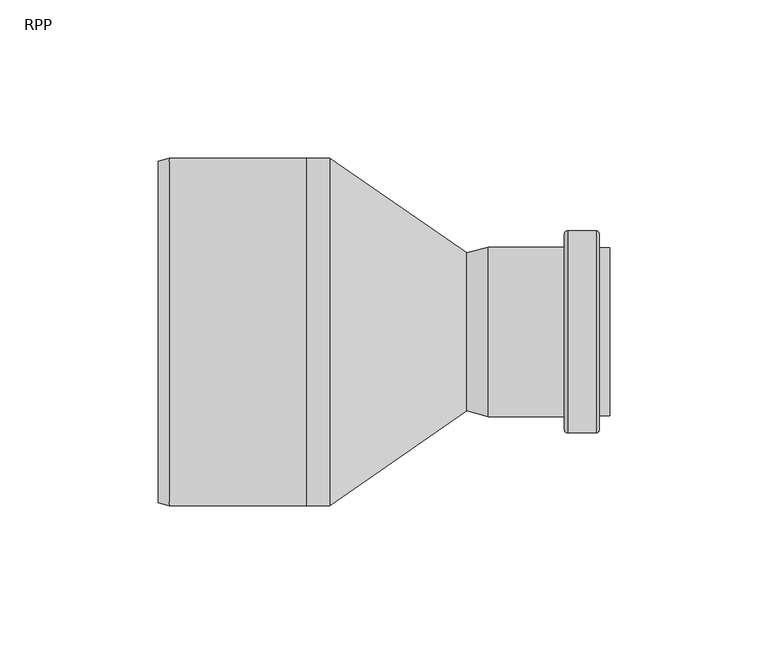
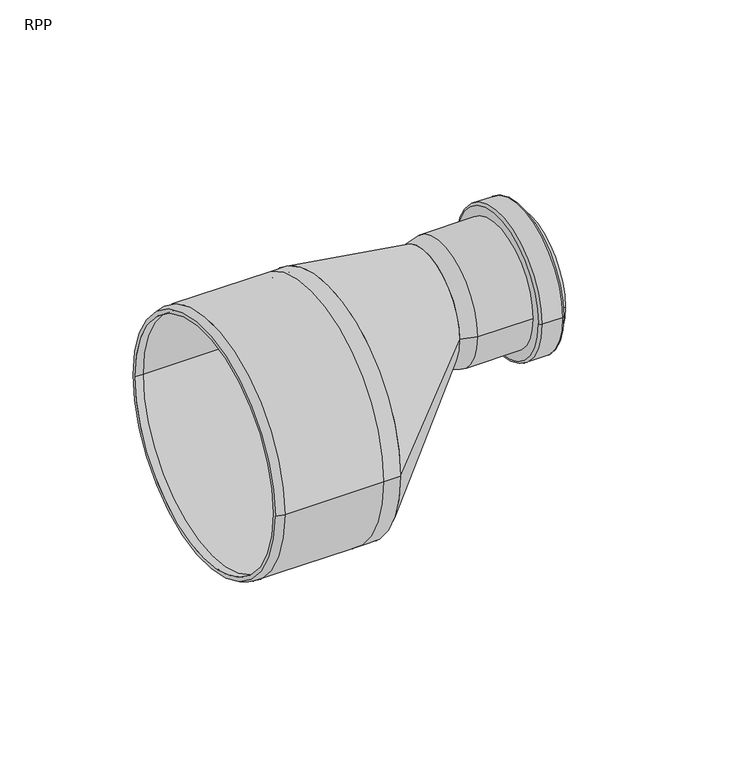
"""IFC4 building model written with IfcOpenShell, lengths in millimetres: pipe fitting geometry, RAUPIANO PLUS Reducer : RPP."""

from ifc_helpers import new_model, si_unit, point, frame, origin, place, context, project, spatial, polyline, circle_curve, ellipse_curve, trimmed, source, transform, mapped, element, save
from ifc_brep_helpers import plane_surface, cylinder_surface, revolved_surface, spline_surface, advanced_brep


def rpp_d01391a3(model_context):
    return source(origin(), model_context, "Body", "AdvancedBrep", [
        advanced_brep(
        [(52.6, 26.8220545, 30.0), (52.6, -26.8220545, 30.0), (28.5, -26.8220545, 30.0), (28.5, 26.8220545, 30.0), (67.0, 26.6076952, 30.0), (67.0, -26.6076952, 30.0), (63.6, -26.6076952, 30.0), (63.6, 26.6076952, 30.0), (63.6, 25.0220545, 30.0), (63.6, -25.0220545, 30.0), (67.0, -25.0220545, 30.0), (67.0, 25.0220545, 30.0), (28.5, 25.0220545, 30.0), (28.5, -25.0220545, 30.0), (21.7, 23.2, 30.0), (21.7, -23.2, 30.0), (21.7, -25.0, 30.0), (21.7, 25.0, 30.0), (53.6, 31.9720545, 30.0), (53.6, -31.9720545, 30.0), (52.6, -30.9720545, 30.0), (52.6, 30.9720545, 30.0), (62.6, 31.9720545, 30.0), (62.6, -31.9720545, 30.0), (63.6, 30.9720545, 30.0), (63.6, -30.9720545, 30.0)],
        [
            (0, 1, circle_curve(frame((52.6, 0.0, 30.0), z_axis=(-1.0, 0.0, 0.0), x_axis=(0.0, -1.0, 0.0)), 26.8220545)),
            (1, 2),
            (2, 3, circle_curve(frame((28.5, 0.0, 30.0), z_axis=(1.0, 0.0, 0.0), x_axis=(0.0, -1.0, 0.0)), 26.8220545)),
            (3, 0),
            (4, 5, circle_curve(frame((67.0, 0.0, 30.0), z_axis=(-1.0, 0.0, 0.0), x_axis=(0.0, -1.0, 0.0)), 26.6076952)),
            (5, 6),
            (6, 7, circle_curve(frame((63.6, 0.0, 30.0), z_axis=(1.0, 0.0, 0.0), x_axis=(0.0, -1.0, 0.0)), 26.6076952)),
            (7, 4),
            (8, 9, circle_curve(frame((63.6, 0.0, 30.0), z_axis=(-1.0, 0.0, 0.0), x_axis=(0.0, -1.0, 0.0)), 25.0220545)),
            (9, 10),
            (10, 11, circle_curve(frame((67.0, 0.0, 30.0), z_axis=(1.0, 0.0, 0.0), x_axis=(0.0, -1.0, 0.0)), 25.0220545)),
            (11, 8),
            (12, 13, circle_curve(frame((28.5, 0.0, 30.0), z_axis=(-1.0, 0.0, 0.0), x_axis=(0.0, -1.0, 0.0)), 25.0220545)),
            (13, 9),
            (8, 12),
            (14, 15, circle_curve(frame((21.7, 0.0, 30.0), z_axis=(-1.0, 0.0, 0.0), x_axis=(0.0, -1.0, 0.0)), 23.2)),
            (15, 13),
            (12, 14),
            (2, 16),
            (16, 17, circle_curve(frame((21.7, 0.0, 30.0), z_axis=(1.0, 0.0, 0.0), x_axis=(0.0, -1.0, 0.0)), 25.0)),
            (17, 3),
            (1, 0, circle_curve(frame((52.6, 0.0, 30.0), z_axis=(-1.0, 0.0, 0.0), x_axis=(0.0, 1.0, 0.0)), 26.8220545)),
            (3, 2, circle_curve(frame((28.5, 0.0, 30.0), z_axis=(1.0, 0.0, 0.0), x_axis=(0.0, 1.0, 0.0)), 26.8220545)),
            (5, 4, circle_curve(frame((67.0, 0.0, 30.0), z_axis=(-1.0, 0.0, 0.0), x_axis=(0.0, 1.0, 0.0)), 26.6076952)),
            (7, 6, circle_curve(frame((63.6, 0.0, 30.0), z_axis=(1.0, 0.0, 0.0), x_axis=(0.0, 1.0, 0.0)), 26.6076952)),
            (10, 11, circle_curve(frame((67.0, 0.0, 30.0), z_axis=(-1.0, 0.0, 0.0), x_axis=(0.0, 1.0, 0.0)), 25.0220545)),
            (9, 8, circle_curve(frame((63.6, 0.0, 30.0), z_axis=(-1.0, 0.0, 0.0), x_axis=(0.0, 1.0, 0.0)), 25.0220545)),
            (13, 12, circle_curve(frame((28.5, 0.0, 30.0), z_axis=(-1.0, 0.0, 0.0), x_axis=(0.0, 1.0, 0.0)), 25.0220545)),
            (15, 14, circle_curve(frame((21.7, 0.0, 30.0), z_axis=(-1.0, 0.0, 0.0), x_axis=(0.0, 1.0, 0.0)), 23.2)),
            (17, 16, circle_curve(frame((21.7, 0.0, 30.0), z_axis=(1.0, 0.0, 0.0), x_axis=(0.0, 1.0, 0.0)), 25.0)),
            (18, 19, circle_curve(frame((53.6, 0.0, 30.0), z_axis=(-1.0, 0.0, 0.0), x_axis=(0.0, -1.0, 0.0)), 31.9720545)),
            (19, 20, circle_curve(frame((53.6, -30.9720545, 30.0), z_axis=(0.0, 0.0, -1.0), x_axis=(1.0, 0.0, 0.0)), 1.0)),
            (20, 21, circle_curve(frame((52.6, 0.0, 30.0), z_axis=(1.0, 0.0, 0.0), x_axis=(0.0, -1.0, 0.0)), 30.9720545)),
            (21, 18, circle_curve(frame((53.6, 30.9720545, 30.0), z_axis=(0.0, 0.0, -1.0), x_axis=(1.0, 0.0, 0.0)), 1.0)),
            (22, 23, circle_curve(frame((62.6, 0.0, 30.0), z_axis=(-1.0, 0.0, 0.0), x_axis=(0.0, -1.0, 0.0)), 31.9720545)),
            (23, 19),
            (18, 22),
            (24, 25, circle_curve(frame((63.6, 0.0, 30.0), z_axis=(-1.0, 0.0, 0.0), x_axis=(0.0, -1.0, 0.0)), 30.9720545)),
            (25, 23, circle_curve(frame((62.6, -30.9720545, 30.0), z_axis=(0.0, 0.0, -1.0), x_axis=(1.0, 0.0, 0.0)), 1.0)),
            (22, 24, circle_curve(frame((62.6, 30.9720545, 30.0), z_axis=(0.0, 0.0, -1.0), x_axis=(1.0, 0.0, 0.0)), 1.0)),
            (20, 21, circle_curve(frame((52.6, 0.0, 30.0), z_axis=(-1.0, 0.0, 0.0), x_axis=(0.0, 1.0, 0.0)), 30.9720545)),
            (19, 18, circle_curve(frame((53.6, 0.0, 30.0), z_axis=(-1.0, 0.0, 0.0), x_axis=(0.0, 1.0, 0.0)), 31.9720545)),
            (23, 22, circle_curve(frame((62.6, 0.0, 30.0), z_axis=(-1.0, 0.0, 0.0), x_axis=(0.0, 1.0, 0.0)), 31.9720545)),
            (25, 24, circle_curve(frame((63.6, 0.0, 30.0), z_axis=(-1.0, 0.0, 0.0), x_axis=(0.0, 1.0, 0.0)), 30.9720545)),
        ],
        [
            cylinder_surface(frame((0.0, 0.0, 30.0), z_axis=(1.0, 0.0, 0.0), x_axis=(0.0, -1.0, 0.0)), 26.8220545),
            cylinder_surface(frame((0.0, 0.0, 30.0), z_axis=(1.0, 0.0, 0.0), x_axis=(0.0, -1.0, 0.0)), 26.6076952),
            revolved_surface(polyline([(67.0, -25.0220545, 30.0), (63.6, -25.0220545, 30.0)]), (0.0, 0.0, 30.0), (1.0, 0.0, 0.0)),
            revolved_surface(polyline([(63.6, -25.0220545, 30.0), (28.5, -25.0220545, 30.0)]), (0.0, 0.0, 30.0), (1.0, 0.0, 0.0)),
            revolved_surface(polyline([(28.5, -25.0220545, 30.0), (21.7, -23.2, 30.0)]), (0.0, 0.0, 30.0), (1.0, 0.0, 0.0)),
            revolved_surface(polyline([(21.7, -25.0, 30.0), (28.5, -26.8220545, 30.0)]), (0.0, 0.0, 30.0), (1.0, 0.0, 0.0)),
            cylinder_surface(frame((0.0, 0.0, 30.0), z_axis=(1.0, 0.0, 0.0), x_axis=(0.0, 1.0, 0.0)), 26.8220545),
            cylinder_surface(frame((0.0, 0.0, 30.0), z_axis=(1.0, 0.0, 0.0), x_axis=(0.0, 1.0, 0.0)), 26.6076952),
            plane_surface(frame((67.0, 0.0, 30.0), z_axis=(1.0, 0.0, 0.0), x_axis=(0.0, 1.0, 0.0))),
            revolved_surface(polyline([(67.0, 25.0220545, 30.0), (63.6, 25.0220545, 30.0)]), (0.0, 0.0, 30.0), (1.0, 0.0, 0.0)),
            revolved_surface(polyline([(63.6, 25.0220545, 30.0), (28.5, 25.0220545, 30.0)]), (0.0, 0.0, 30.0), (1.0, 0.0, 0.0)),
            revolved_surface(polyline([(28.5, 25.0220545, 30.0), (21.7, 23.2, 30.0)]), (0.0, 0.0, 30.0), (1.0, 0.0, 0.0)),
            revolved_surface(polyline([(21.7, 25.0, 30.0), (28.5, 26.8220545, 30.0)]), (0.0, 0.0, 30.0), (1.0, 0.0, 0.0)),
            revolved_surface(trimmed(ellipse_curve(frame((53.6, -30.9720545, 30.0), z_axis=(0.0, 0.0, 1.0), x_axis=(1.0, 0.0, 0.0)), 1.0, 1.0), [point((52.6, -30.9720545, 30.0))], [point((53.6, -31.9720545, 30.0))], True, "CARTESIAN"), (0.0, 0.0, 30.0), (1.0, 0.0, 0.0)),
            cylinder_surface(frame((0.0, 0.0, 30.0), z_axis=(1.0, 0.0, 0.0), x_axis=(0.0, -1.0, 0.0)), 31.9720545),
            revolved_surface(trimmed(ellipse_curve(frame((62.6, -30.9720545, 30.0), z_axis=(0.0, 0.0, 1.0), x_axis=(1.0, 0.0, 0.0)), 1.0, 1.0), [point((62.6, -31.9720545, 30.0))], [point((63.6, -30.9720545, 30.0))], True, "CARTESIAN"), (0.0, 0.0, 30.0), (1.0, 0.0, 0.0)),
            plane_surface(frame((52.6, 0.0, 30.0), z_axis=(-1.0, 0.0, 0.0), x_axis=(0.0, 1.0, 0.0))),
            revolved_surface(trimmed(ellipse_curve(frame((53.6, 30.9720545, 30.0), z_axis=(0.0, 0.0, -1.0), x_axis=(1.0, 0.0, 0.0)), 1.0, 1.0), [point((52.6, 30.9720545, 30.0))], [point((53.6, 31.9720545, 30.0))], True, "CARTESIAN"), (0.0, 0.0, 30.0), (1.0, 0.0, 0.0)),
            cylinder_surface(frame((0.0, 0.0, 30.0), z_axis=(1.0, 0.0, 0.0), x_axis=(0.0, 1.0, 0.0)), 31.9720545),
            revolved_surface(trimmed(ellipse_curve(frame((62.6, 30.9720545, 30.0), z_axis=(0.0, 0.0, -1.0), x_axis=(1.0, 0.0, 0.0)), 1.0, 1.0), [point((62.6, 31.9720545, 30.0))], [point((63.6, 30.9720545, 30.0))], True, "CARTESIAN"), (0.0, 0.0, 30.0), (1.0, 0.0, 0.0)),
            plane_surface(frame((63.6, 0.0, 30.0), z_axis=(1.0, 0.0, 0.0), x_axis=(0.0, 1.0, 0.0))),
            plane_surface(frame((21.7, 0.0, 30.0), z_axis=(-1.0, 0.0, 0.0), x_axis=(0.0, 1.0, 0.0))),
        ],
        [
            (0, [[1, 2, 3, 4]]),
            (1, [[5, 6, 7, 8]]),
            (2, [[9, 10, 11, 12]]),
            (3, [[13, 14, -9, 15]]),
            (4, [[16, 17, -13, 18]]),
            (5, [[-3, 19, 20, 21]]),
            (6, [[22, -4, 23, -2]]),
            (7, [[24, -8, 25, -6]]),
            (8, [[-24, -5], [26, -11]]),
            (9, [[27, -12, -26, -10]]),
            (10, [[28, -15, -27, -14]]),
            (11, [[29, -18, -28, -17]]),
            (12, [[-23, -21, 30, -19]]),
            (13, [[31, 32, 33, 34]]),
            (14, [[35, 36, -31, 37]]),
            (15, [[38, 39, -35, 40]]),
            (16, [[41, -33], [-22, -1]]),
            (17, [[42, -34, -41, -32]]),
            (18, [[43, -37, -42, -36]]),
            (19, [[44, -40, -43, -39]]),
            (20, [[-44, -38], [-25, -7]]),
            (21, [[-30, -20], [-29, -16]]),
        ],
    ),
        advanced_brep(
        [(-21.7, 55.0, 0.0), (-21.7, -55.0, 0.0), (-28.9, -55.0, 0.0), (-28.9, 55.0, 0.0), (-28.9, 52.3, 0.0), (-28.9, -52.3, 0.0), (-21.7, -52.3, 0.0), (-21.7, 52.3, 0.0), (-72.4, 52.3, 0.0), (-72.4, -52.3, 0.0), (-76.0, 52.3, 0.0), (-76.0, -52.3, 0.0), (-72.4, 55.0, 0.0), (-72.4, -55.0, 0.0), (-76.0, -54.0353829, 0.0), (-76.0, 54.0353829, 0.0)],
        [
            (0, 1, circle_curve(frame((-21.7, 0.0, 0.0), z_axis=(-1.0, 0.0, 0.0), x_axis=(0.0, -1.0, 0.0)), 55.0)),
            (1, 2),
            (2, 3, circle_curve(frame((-28.9, 0.0, 0.0), z_axis=(1.0, 0.0, 0.0), x_axis=(0.0, -1.0, 0.0)), 55.0)),
            (3, 0),
            (4, 5, circle_curve(frame((-28.9, 0.0, 0.0), z_axis=(-1.0, 0.0, 0.0), x_axis=(0.0, -1.0, 0.0)), 52.3)),
            (5, 6),
            (6, 7, circle_curve(frame((-21.7, 0.0, 0.0), z_axis=(1.0, 0.0, 0.0), x_axis=(0.0, -1.0, 0.0)), 52.3)),
            (7, 4),
            (8, 9, circle_curve(frame((-72.4, 0.0, 0.0), z_axis=(-1.0, 0.0, 0.0), x_axis=(0.0, -1.0, 0.0)), 52.3)),
            (9, 5),
            (4, 8),
            (10, 11, circle_curve(frame((-76.0, 0.0, 0.0), z_axis=(-1.0, 0.0, 0.0), x_axis=(0.0, -1.0, 0.0)), 52.3)),
            (11, 9),
            (8, 10),
            (12, 13, circle_curve(frame((-72.4, 0.0, 0.0), z_axis=(-1.0, 0.0, 0.0), x_axis=(0.0, -1.0, 0.0)), 55.0)),
            (13, 14),
            (14, 15, circle_curve(frame((-76.0, 0.0, 0.0), z_axis=(1.0, 0.0, 0.0), x_axis=(0.0, -1.0, 0.0)), 54.0353829)),
            (15, 12),
            (2, 13),
            (12, 3),
            (1, 0, circle_curve(frame((-21.7, 0.0, 0.0), z_axis=(-1.0, 0.0, 0.0), x_axis=(0.0, 1.0, 0.0)), 55.0)),
            (3, 2, circle_curve(frame((-28.9, 0.0, 0.0), z_axis=(1.0, 0.0, 0.0), x_axis=(0.0, 1.0, 0.0)), 55.0)),
            (6, 7, circle_curve(frame((-21.7, 0.0, 0.0), z_axis=(-1.0, 0.0, 0.0), x_axis=(0.0, 1.0, 0.0)), 52.3)),
            (5, 4, circle_curve(frame((-28.9, 0.0, 0.0), z_axis=(-1.0, 0.0, 0.0), x_axis=(0.0, 1.0, 0.0)), 52.3)),
            (9, 8, circle_curve(frame((-72.4, 0.0, 0.0), z_axis=(-1.0, 0.0, 0.0), x_axis=(0.0, 1.0, 0.0)), 52.3)),
            (11, 10, circle_curve(frame((-76.0, 0.0, 0.0), z_axis=(-1.0, 0.0, 0.0), x_axis=(0.0, 1.0, 0.0)), 52.3)),
            (14, 15, circle_curve(frame((-76.0, 0.0, 0.0), z_axis=(-1.0, 0.0, 0.0), x_axis=(0.0, 1.0, 0.0)), 54.0353829)),
            (13, 12, circle_curve(frame((-72.4, 0.0, 0.0), z_axis=(-1.0, 0.0, 0.0), x_axis=(0.0, 1.0, 0.0)), 55.0)),
        ],
        [
            cylinder_surface(frame((0.0, 0.0, 0.0), z_axis=(1.0, 0.0, 0.0), x_axis=(0.0, -1.0, 0.0)), 55.0),
            revolved_surface(polyline([(-21.7, -52.3, 0.0), (-28.9, -52.3, 0.0)]), (0.0, 0.0, 0.0), (1.0, 0.0, 0.0)),
            revolved_surface(polyline([(-28.9, -52.3, 0.0), (-72.4, -52.3, 0.0)]), (0.0, 0.0, 0.0), (1.0, 0.0, 0.0)),
            revolved_surface(polyline([(-72.4, -52.3, 0.0), (-76.0, -52.3, 0.0)]), (0.0, 0.0, 0.0), (1.0, 0.0, 0.0)),
            revolved_surface(polyline([(-76.0, -54.0353829, 0.0), (-72.4, -55.0, 0.0)]), (0.0, 0.0, 0.0), (1.0, 0.0, 0.0)),
            cylinder_surface(frame((0.0, 0.0, 0.0), z_axis=(1.0, 0.0, 0.0), x_axis=(0.0, 1.0, 0.0)), 55.0),
            plane_surface(frame((-21.7, 0.0, 0.0), z_axis=(1.0, 0.0, 0.0), x_axis=(0.0, 1.0, 0.0))),
            revolved_surface(polyline([(-21.7, 52.3, 0.0), (-28.9, 52.3, 0.0)]), (0.0, 0.0, 0.0), (1.0, 0.0, 0.0)),
            revolved_surface(polyline([(-28.9, 52.3, 0.0), (-72.4, 52.3, 0.0)]), (0.0, 0.0, 0.0), (1.0, 0.0, 0.0)),
            revolved_surface(polyline([(-72.4, 52.3, 0.0), (-76.0, 52.3, 0.0)]), (0.0, 0.0, 0.0), (1.0, 0.0, 0.0)),
            plane_surface(frame((-76.0, 0.0, 0.0), z_axis=(-1.0, 0.0, 0.0), x_axis=(0.0, 1.0, 0.0))),
            revolved_surface(polyline([(-76.0, 54.0353829, 0.0), (-72.4, 55.0, 0.0)]), (0.0, 0.0, 0.0), (1.0, 0.0, 0.0)),
        ],
        [
            (0, [[1, 2, 3, 4]]),
            (1, [[5, 6, 7, 8]]),
            (2, [[9, 10, -5, 11]]),
            (3, [[12, 13, -9, 14]]),
            (4, [[15, 16, 17, 18]]),
            (0, [[-3, 19, -15, 20]]),
            (5, [[21, -4, 22, -2]]),
            (6, [[-21, -1], [23, -7]]),
            (7, [[24, -8, -23, -6]]),
            (8, [[25, -11, -24, -10]]),
            (9, [[26, -14, -25, -13]]),
            (10, [[27, -17], [-26, -12]]),
            (11, [[28, -18, -27, -16]]),
            (5, [[-22, -20, -28, -19]]),
        ],
    ),
        advanced_brep(
        [(21.7, -25.0, 30.0), (21.7, 25.0, 30.0), (-21.7, -55.0, 0.0), (-21.7, 55.0, 0.0)],
        [
            (0, 1, circle_curve(frame((21.7, 0.0, 30.0), z_axis=(1.0, 0.0, 0.0), x_axis=(0.0, 1.0, 0.0)), 25.0)),
            (1, 0, circle_curve(frame((21.7, 0.0, 30.0), z_axis=(1.0, 0.0, 0.0), x_axis=(0.0, 1.0, 0.0)), 25.0)),
            (2, 3, circle_curve(frame((-21.7, 0.0, 0.0), z_axis=(-1.0, 0.0, 0.0), x_axis=(0.0, 1.0, 0.0)), 55.0)),
            (3, 2, circle_curve(frame((-21.7, 0.0, 0.0), z_axis=(-1.0, 0.0, 0.0), x_axis=(0.0, 1.0, 0.0)), 55.0)),
            (3, 1),
            (0, 2),
        ],
        [
            plane_surface(frame((21.7, 0.0, 30.0), z_axis=(1.0, 0.0, 0.0), x_axis=(0.0, 0.0, -1.0))),
            plane_surface(frame((-21.7, 0.0, 0.0), z_axis=(-1.0, 0.0, 0.0), x_axis=(0.0, 0.0, -1.0))),
            spline_surface(2, 1, [[(-21.7, -55.0, 0.0), (21.7, -25.0, 30.0)], [(-21.7, -55.0, -55.0), (21.7, -25.0, 5.0)], [(-21.7, 0.0, -55.0), (21.7, 0.0, 5.0)], [(-21.7, 55.0, -55.0), (21.7, 25.0, 5.0)], [(-21.7, 55.0, 0.0), (21.7, 25.0, 30.0)]], [3, 2, 3], [2, 2], [0.0, 1.0, 2.0], [0.0, 1.0], weights=[[1.0, 1.0], [0.7071067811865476, 0.7071067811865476], [1.0, 1.0], [0.7071067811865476, 0.7071067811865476], [1.0, 1.0]]),
            spline_surface(2, 1, [[(-21.7, 55.0, 0.0), (21.7, 25.0, 30.0)], [(-21.7, 55.0, 55.0), (21.7, 25.0, 55.0)], [(-21.7, 0.0, 55.0), (21.7, 0.0, 55.0)], [(-21.7, -55.0, 55.0), (21.7, -25.0, 55.0)], [(-21.7, -55.0, 0.0), (21.7, -25.0, 30.0)]], [3, 2, 3], [2, 2], [0.0, 1.0, 2.0], [0.0, 1.0], weights=[[1.0, 1.0], [0.7071067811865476, 0.7071067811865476], [1.0, 1.0], [0.7071067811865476, 0.7071067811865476], [1.0, 1.0]]),
        ],
        [
            (0, [[1, 2]]),
            (1, [[3, 4]]),
            (2, [[-4, 5, -1, 6]]),
            (3, [[-3, -6, -2, -5]]),
        ],
    ),
    ])


if __name__ == "__main__":
    model = new_model("IFC4")
    model_context = context("Model", 3, world=origin())
    ifc_project = project(units=[si_unit("LENGTHUNIT", "METRE", prefix="MILLI")], contexts=[model_context])
    site = spatial("IfcSite", under=ifc_project)
    building = spatial("IfcBuilding", under=site)
    placement = place(None, origin())
    rpp_shape = rpp_d01391a3(model_context)
    element("IfcPipeFitting", 1, ObjectType="RAUPIANO PLUS Reducer : RPP", at=placement, inside=building, context=model_context, shape_type="MappedRepresentation", body=[
        mapped(rpp_shape, transform((0.0, 0.0, 0.0), x_axis=(1.0, 0.0, 0.0), y_axis=(0.0, 1.0, 0.0), z_axis=(0.0, 0.0, 1.0))),
    ])
    save(model, "model.ifc")
